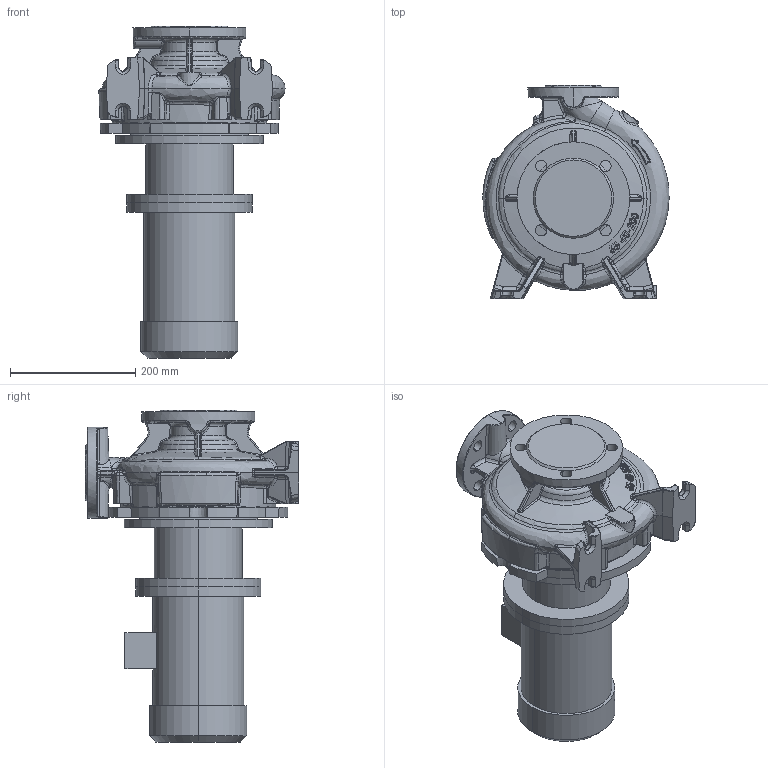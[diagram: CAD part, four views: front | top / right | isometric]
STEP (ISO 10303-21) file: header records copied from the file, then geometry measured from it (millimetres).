
FILE_DESCRIPTION (( 'STEP AP214' ), '1' );
FILE_NAME ('KRM 65-40-200-4-0,75.STEP', '2026-04-24T08:49:18', ( '' ), ( '' ), 'SwSTEP 2.0', 'SolidWorks 2016', '' );
FILE_SCHEMA (( 'AUTOMOTIVE_DESIGN' ));
Length unit declared in the file: millimetre
Products named in the file (1): KRM 65-40-200-4-0,75
Bounding box: 297.25 x 340 x 529.8 mm (x, y, z)
Volume: 14875793.4 mm3; surface area: 896810.1 mm2
Topology: 4 solids, 4 shells, 1118 faces, 2713 edges, 1612 vertices
Faces by surface type: bspline 511, cylinder 210, plane 197, cone 90, torus 82, sphere 28
Entity records: 83378 total; most frequent: CARTESIAN_POINT 49066, ORIENTED_EDGE 5384, DIRECTION 3534, EDGE_CURVE 2692, VERTEX_POINT 1612, AXIS2_PLACEMENT_3D 1493, EDGE_LOOP 1164, UNCERTAINTY_MEASURE_WITH_UNIT 1124
